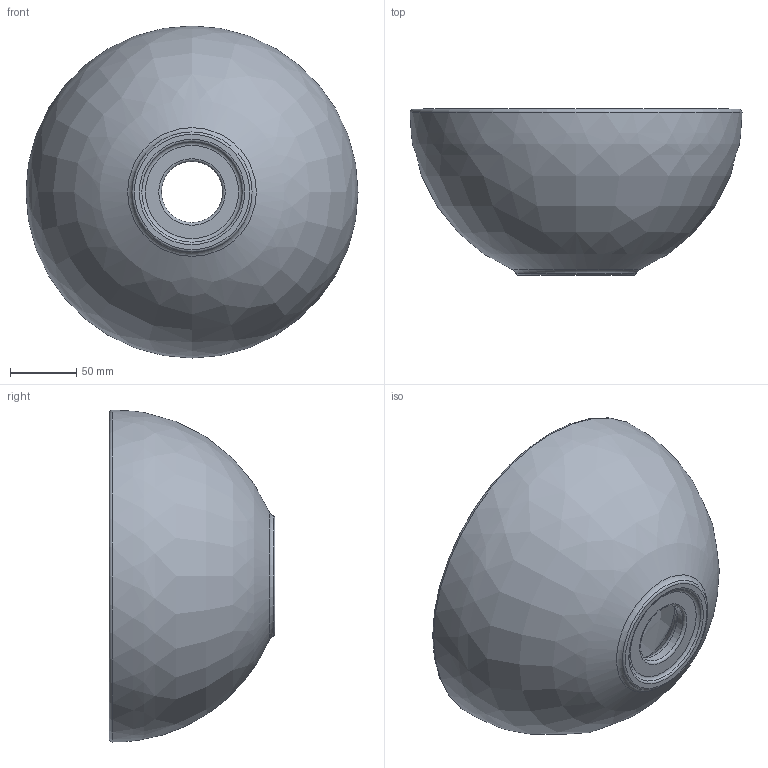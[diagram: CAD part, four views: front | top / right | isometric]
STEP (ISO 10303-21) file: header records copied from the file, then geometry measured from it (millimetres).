
FILE_DESCRIPTION(/* description */ (''),/* implementation_level */ '2;1');
FILE_NAME(/* name */ 'WB_HAPPYHOUR_05_PROT_20190916.stp',/* time_stamp */ '2019-09-16T12:49:01+02:00',/* author */ (''),/* organization */ (''),/* preprocessor_version */ 'ST-DEVELOPER v16.7',/* originating_system */ 'SIEMENS PLM Software NX 1847',/* authorisation */ '');
FILE_SCHEMA (('AUTOMOTIVE_DESIGN { 1 0 10303 214 3 1 1 1 }'));
Length unit declared in the file: millimetre
Products named in the file (1): Dani0750643Ax3yy
Bounding box: 250 x 125 x 250 mm (x, y, z)
Volume: 997691.7 mm3; surface area: 204356.6 mm2
Topology: 1 solids, 2 shells, 17 faces, 38 edges, 23 vertices
Faces by surface type: torus 8, bspline 4, cone 3, plane 2
Entity records: 474 total; most frequent: CARTESIAN_POINT 160, DIRECTION 62, FACE_BOUND 34, EDGE_LOOP 34, ORIENTED_EDGE 34, AXIS2_PLACEMENT_3D 31, ADVANCED_FACE 17, VERTEX_POINT 17
